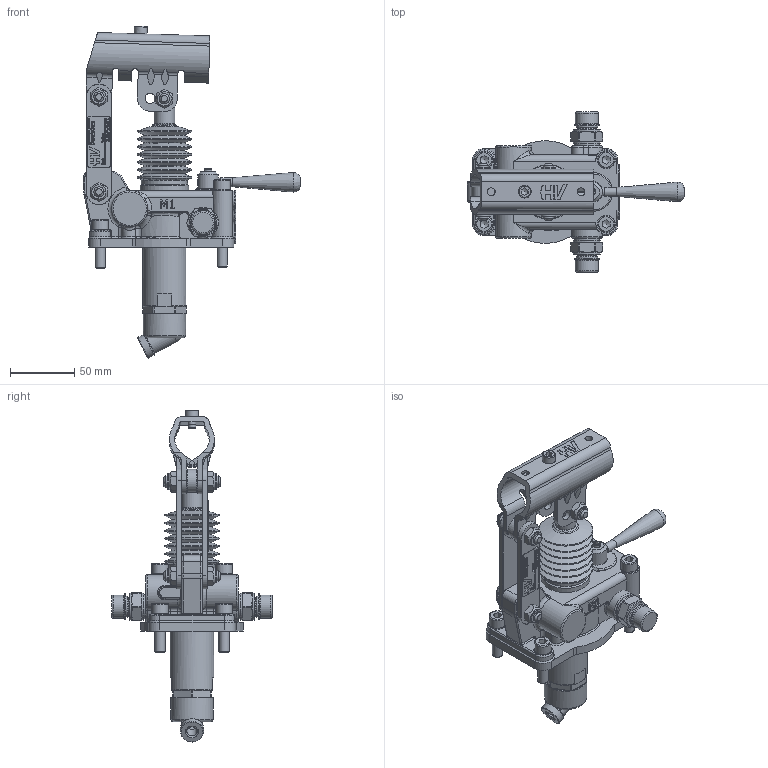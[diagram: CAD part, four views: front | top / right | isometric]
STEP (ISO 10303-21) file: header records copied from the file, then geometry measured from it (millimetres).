
FILE_DESCRIPTION((''),'2;1');
FILE_NAME('G:\HV_HYDRAULIC\AZIENDA_HV_HYDRAULIC\ARCHIVIO_DISEGNI\5_PRODOTTI_FINITI\1_POMPE_MANUALI\6054_PMD_6\6054.0045_PMD_6_cc-s_(HV)\6054.0045.stp','2024-02-29T14:32:05',('christian.scardovi'),(''),'Autodesk Inventor 2013','Autodesk Inventor 2013','');
FILE_SCHEMA(('AUTOMOTIVE_DESIGN { 1 0 10303 214 1 1 1 1 }'));
Length unit declared in the file: millimetre
Products named in the file (1): 6054.0045
Bounding box: 169 x 125 x 258.54 mm (x, y, z)
Surface area: 128699.5 mm2
Topology: 2 solids, 3 shells, 1514 faces, 3798 edges, 2404 vertices
Faces by surface type: plane 740, cylinder 308, bspline 185, cone 140, torus 128, sphere 13
Full cylindrical faces by diameter (mm): 4.917 x1, 5 x2, 6 x7, 6.5 x1, 7 x1, 8 x15, 9 x2, 9.2 x1, 10 x4, 11.05 x6, 12 x5, 13 x4, 13.2 x1, 14 x4, 15 x2, 15.9 x2, 16 x5, 16.6 x2, 18 x7, 18.1 x1, 19 x2, 20 x2, 21 x6, 22 x1, 22.4 x2, 24 x1, 26.5 x1, 28 x2, 29 x1, 33 x1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
Entity records: 47264 total; most frequent: CARTESIAN_POINT 12089, ORIENTED_EDGE 6938, DIRECTION 6471, EDGE_CURVE 3469, VERTEX_POINT 2332, AXIS2_PLACEMENT_3D 2293, EDGE_LOOP 1913, VECTOR 1885
